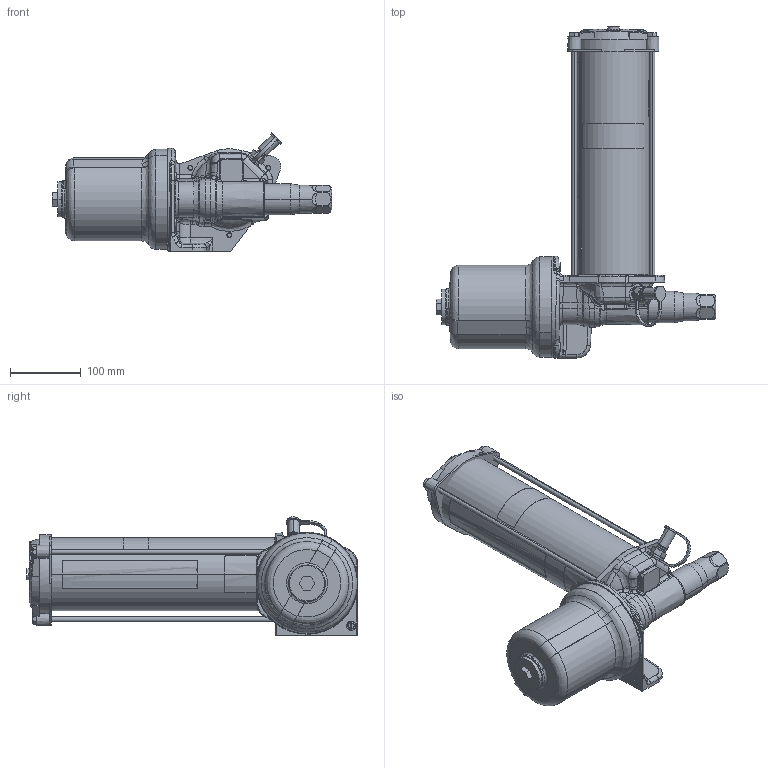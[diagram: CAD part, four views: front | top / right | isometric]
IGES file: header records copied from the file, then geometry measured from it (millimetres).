
Start section:  PTC IGES file: 17c750-en-u.igs
Global section: file name: 17c750-en-u.igs; native system: Creo Parametric by PTC Inc.; preprocessor: 2023424; author: qtmwp1; organization: Unknown; date: 20240322.095227; units: inch
Bounding box: 393.59 x 467.74 x 166.77 mm (x, y, z)
Surface area: 375091.7 mm2 (no closed solid volume)
Topology: 0 solids, 0 shells, 632 faces, 3192 edges, 3192 vertices
Faces by surface type: bspline 373, revolution 259
